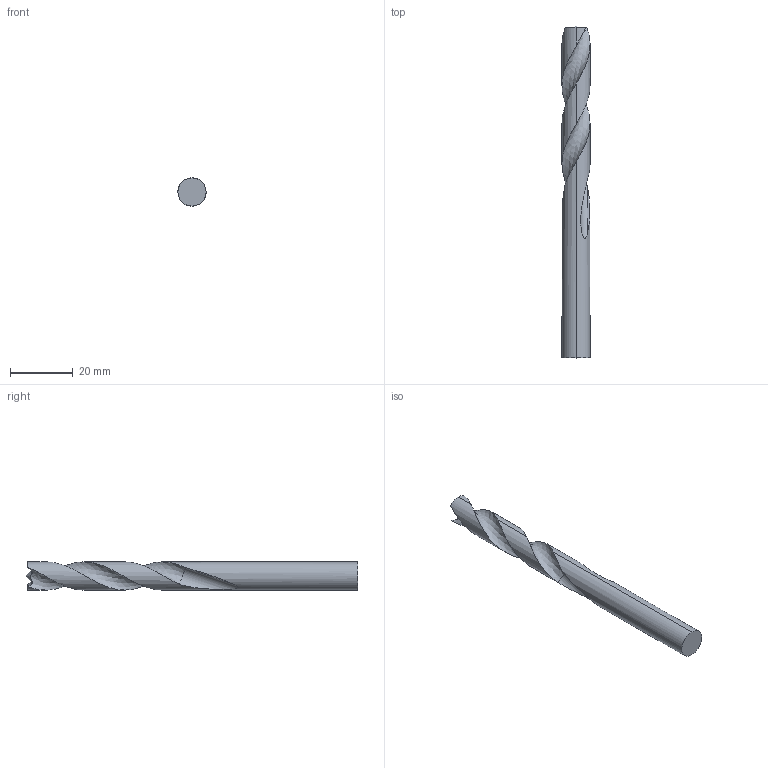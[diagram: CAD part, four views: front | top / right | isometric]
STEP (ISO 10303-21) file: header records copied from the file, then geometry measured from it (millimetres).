
FILE_DESCRIPTION (( 'STEP AP214' ), '1' );
FILE_NAME ('084.818.008.STEP', '2021-02-05T11:02:56', ( '' ), ( '' ), 'SwSTEP 2.0', 'SolidWorks 2018', '' );
FILE_SCHEMA (( 'AUTOMOTIVE_DESIGN' ));
Length unit declared in the file: millimetre
Products named in the file (1): 084.818.008
Bounding box: 9 x 106 x 9 mm (x, y, z)
Volume: 5125.5 mm3; surface area: 3208.9 mm2
Topology: 1 solids, 1 shells, 24 faces, 62 edges, 40 vertices
Faces by surface type: cylinder 8, plane 6, cone 5, torus 3, bspline 2
Entity records: 2541 total; most frequent: CARTESIAN_POINT 1981, ORIENTED_EDGE 124, DIRECTION 99, EDGE_CURVE 62, AXIS2_PLACEMENT_3D 44, VERTEX_POINT 40, ADVANCED_FACE 24, EDGE_LOOP 24
